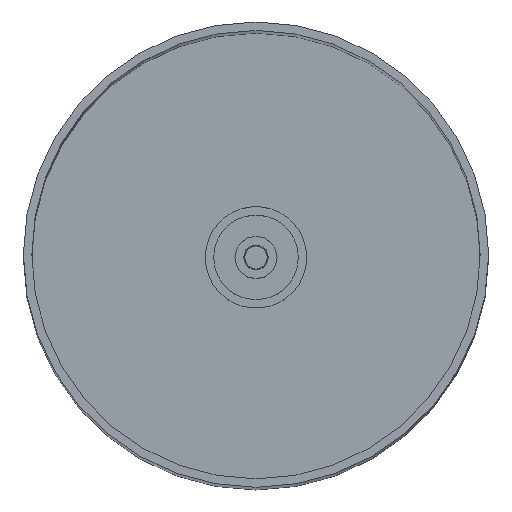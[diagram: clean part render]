
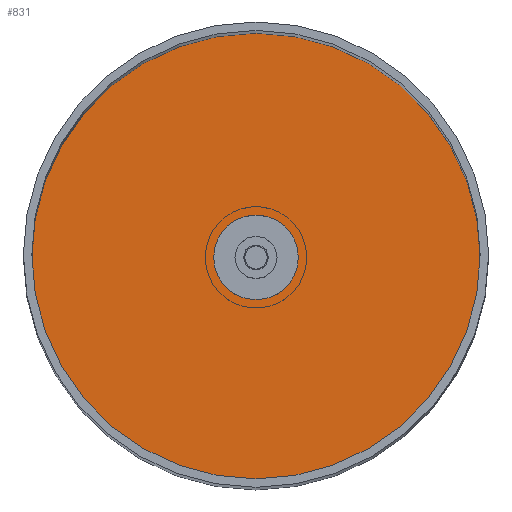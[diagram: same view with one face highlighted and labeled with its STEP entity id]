
A CAD part, top view. The second image highlights one B-rep face of the part: STEP entity #831.
In plain terms, the highlighted planar face has unit normal (0, 0, 1).
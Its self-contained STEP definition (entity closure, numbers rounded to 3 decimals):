
#82=PLANE('',#4344);
#138=FACE_BOUND('',#1223,.T.);
#279=TRIMMED_CURVE($,#520,(#7262),(#7263),.T.,.CARTESIAN.);
#281=TRIMMED_CURVE($,#522,(#7272),(#7273),.T.,.CARTESIAN.);
#296=TRIMMED_CURVE($,#537,(#7331),(#7332),.T.,.CARTESIAN.);
#298=TRIMMED_CURVE($,#539,(#7337),(#7338),.T.,.CARTESIAN.);
#520=CIRCLE('',#4351,5.);
#522=CIRCLE('',#4353,26.5);
#537=CIRCLE('',#4368,26.5);
#539=CIRCLE('',#4370,5.);
#831=ADVANCED_FACE('',(#1022,#138),#82,.T.);
#1022=FACE_OUTER_BOUND('',#1222,.T.);
#1222=EDGE_LOOP('',(#1792,#1793));
#1223=EDGE_LOOP('',(#1794,#1795));
#1792=ORIENTED_EDGE('',*,*,#2673,.T.);
#1793=ORIENTED_EDGE('',*,*,#2651,.T.);
#1794=ORIENTED_EDGE('',*,*,#2675,.T.);
#1795=ORIENTED_EDGE('',*,*,#2647,.T.);
#2647=EDGE_CURVE('',#3562,#3560,#279,.T.);
#2651=EDGE_CURVE('',#3566,#3564,#281,.T.);
#2673=EDGE_CURVE('',#3564,#3566,#296,.T.);
#2675=EDGE_CURVE('',#3560,#3562,#298,.T.);
#3560=VERTEX_POINT('',#7229);
#3562=VERTEX_POINT('',#7231);
#3564=VERTEX_POINT('',#7233);
#3566=VERTEX_POINT('',#7235);
#4344=AXIS2_PLACEMENT_3D('',#7220,#4885,$);
#4351=AXIS2_PLACEMENT_3D($,#7261,#4894,#4895);
#4353=AXIS2_PLACEMENT_3D($,#7271,#4898,#4899);
#4368=AXIS2_PLACEMENT_3D($,#7330,#4928,#4929);
#4370=AXIS2_PLACEMENT_3D($,#7336,#4932,#4933);
#4885=DIRECTION('',(0.,0.,1.));
#4894=DIRECTION('',(0.,0.,-1.));
#4895=DIRECTION('',(1.,0.,0.));
#4898=DIRECTION('',(0.,0.,1.));
#4899=DIRECTION('',(-1.,0.,0.));
#4928=DIRECTION('',(0.,0.,1.));
#4929=DIRECTION('',(1.,0.,0.));
#4932=DIRECTION('',(0.,0.,-1.));
#4933=DIRECTION('',(-1.,0.,0.));
#7220=CARTESIAN_POINT('',(-2098.218,-31.667,911.));
#7229=CARTESIAN_POINT('',(-2071.417,0.133,911.));
#7231=CARTESIAN_POINT('',(-2061.417,0.133,911.));
#7233=CARTESIAN_POINT('',(-2039.917,0.133,911.));
#7235=CARTESIAN_POINT('',(-2092.917,0.133,911.));
#7261=CARTESIAN_POINT('',(-2066.417,0.133,911.));
#7262=CARTESIAN_POINT('',(-2061.417,0.133,911.));
#7263=CARTESIAN_POINT('',(-2071.417,0.133,911.));
#7271=CARTESIAN_POINT('',(-2066.417,0.133,911.));
#7272=CARTESIAN_POINT('',(-2092.917,0.133,911.));
#7273=CARTESIAN_POINT('',(-2039.917,0.133,911.));
#7330=CARTESIAN_POINT('',(-2066.417,0.133,911.));
#7331=CARTESIAN_POINT('',(-2039.917,0.133,911.));
#7332=CARTESIAN_POINT('',(-2092.917,0.133,911.));
#7336=CARTESIAN_POINT('',(-2066.417,0.133,911.));
#7337=CARTESIAN_POINT('',(-2071.417,0.133,911.));
#7338=CARTESIAN_POINT('',(-2061.417,0.133,911.));
